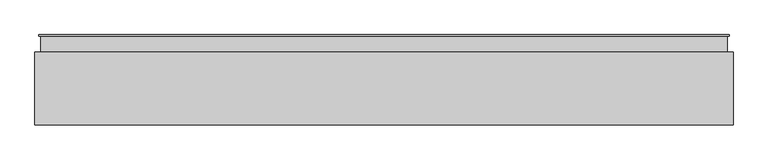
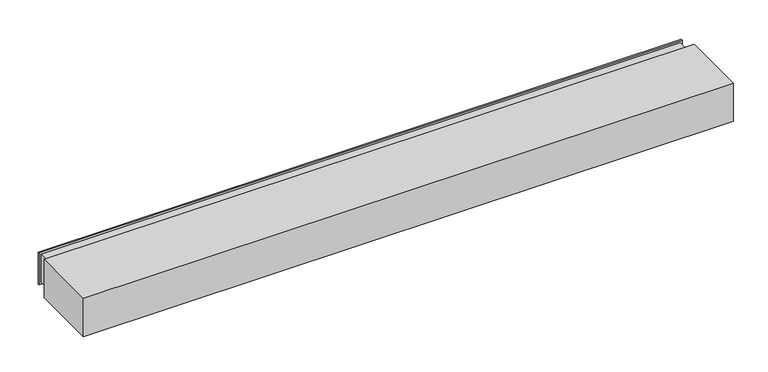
"""IFC4 building model written with IfcOpenShell, lengths in millimetres: air terminal geometry, 020_排気ガラリ : 排気ガラリ."""

from ifc_helpers import new_model, si_unit, frame, origin, place, context, project, spatial, polyline, outline, extrude, faceted_brep, source, transform, mapped, element, save


def air_terminal_02e9a27c(model_context):
    return source(origin(), model_context, "Body", "SolidModel", [
        extrude(outline(polyline([(-48.0, 53.3333333), (-48.0, 38.3333333), (10.0, 8.3333333), (10.0, -6.6666667), (8.0, -6.6666667), (8.0, 7.1161157), (-50.0, 37.1161157), (-50.0, 53.3333333), (-48.0, 53.3333333)])), frame((-2350.0, 0.0, 0.0), z_axis=(1.0, 0.0, 0.0), x_axis=(0.0, 1.0, 0.0)), (0.0, 0.0, 1.0), 4700.0),
        extrude(outline(polyline([(-48.0, 6.6666667), (-48.0, -8.3333333), (10.0, -38.3333333), (10.0, -53.3333333), (8.0, -53.3333333), (8.0, -39.5505509), (-50.0, -9.5505509), (-50.0, 6.6666667), (-48.0, 6.6666667)])), frame((-2350.0, 0.0, 0.0), z_axis=(1.0, 0.0, 0.0), x_axis=(0.0, 1.0, 0.0)), (0.0, 0.0, 1.0), 4700.0),
        extrude(outline(polyline([(-48.0, 100.0), (-48.0, 85.0), (10.0, 55.0), (10.0, 40.0), (8.0, 40.0), (8.0, 53.7827824), (-50.0, 83.7827824), (-50.0, 100.0), (-48.0, 100.0)])), frame((-2350.0, 0.0, 0.0), z_axis=(1.0, 0.0, 0.0), x_axis=(0.0, 1.0, 0.0)), (0.0, 0.0, 1.0), 4700.0),
        extrude(outline(polyline([(-48.0, -40.0), (-48.0, -55.0), (10.0, -85.0), (10.0, -100.0), (8.0, -100.0), (8.0, -86.2172176), (-50.0, -56.2172176), (-50.0, -40.0), (-48.0, -40.0)])), frame((-2350.0, 0.0, 0.0), z_axis=(1.0, 0.0, 0.0), x_axis=(0.0, 1.0, 0.0)), (0.0, 0.0, 1.0), 4700.0),
        faceted_brep([(2350.0, 10.0, 100.0), (2350.0, 10.0, -100.0), (2350.0, -110.0, -100.0), (2350.0, -110.0, 100.0), (2375.0, 0.0, 125.0), (2375.0, 0.0, -125.0), (2375.0, 10.0, -125.0), (2375.0, 10.0, 125.0), (2360.0, -110.0, 110.0), (2360.0, -110.0, -110.0), (2360.0, 0.0, -110.0), (2360.0, 0.0, 110.0), (-2350.0, 10.0, -100.0), (-2350.0, -110.0, -100.0), (-2375.0, 0.0, -125.0), (-2375.0, 10.0, -125.0), (-2360.0, -110.0, -110.0), (-2360.0, 0.0, -110.0), (-2350.0, 10.0, 100.0), (-2350.0, -110.0, 100.0), (-2375.0, 0.0, 125.0), (-2375.0, 10.0, 125.0), (-2360.0, -110.0, 110.0), (-2360.0, 0.0, 110.0)], [[[0, 1, 2, 3]], [[4, 5, 6, 7]], [[8, 9, 10, 11]], [[1, 12, 13, 2]], [[5, 14, 15, 6]], [[9, 16, 17, 10]], [[12, 18, 19, 13]], [[14, 20, 21, 15]], [[16, 22, 23, 17]], [[18, 0, 3, 19]], [[7, 6, 15, 21], [1, 0, 18, 12]], [[20, 4, 7, 21]], [[5, 4, 20, 14], [11, 10, 17, 23]], [[22, 8, 11, 23]], [[9, 8, 22, 16], [3, 2, 13, 19]]]),
        extrude(outline(polyline([(2350.0, 0.0), (2350.0, -10.0), (-2350.0, -10.0), (-2350.0, 0.0), (2350.0, 0.0)])), frame((0.0, 0.0, -100.0), z_axis=(0.0, 0.0, 1.0), x_axis=(1.0, 0.0, 0.0)), (0.0, 0.0, 1.0), 200.0),
        extrude(outline(polyline([(2400.0, -110.0), (2400.0, -610.0), (-2400.0, -610.0), (-2400.0, -110.0), (2400.0, -110.0)])), frame((0.0, 0.0, -150.0), z_axis=(0.0, 0.0, 1.0), x_axis=(1.0, 0.0, 0.0)), (0.0, 0.0, 1.0), 300.0),
    ])


if __name__ == "__main__":
    model = new_model("IFC4")
    model_context = context("Model", 3, world=origin())
    ifc_project = project(units=[si_unit("LENGTHUNIT", "METRE", prefix="MILLI")], contexts=[model_context])
    site = spatial("IfcSite", under=ifc_project)
    building = spatial("IfcBuilding", under=site)
    placement = place(None, origin())
    air_terminal_shape = air_terminal_02e9a27c(model_context)
    element("IfcAirTerminal", 1, ObjectType="020_排気ガラリ : 排気ガラリ", at=placement, inside=building, context=model_context, shape_type="MappedRepresentation", body=[
        mapped(air_terminal_shape, transform((0.0, 0.0, 0.0), x_axis=(1.0, 0.0, 0.0), y_axis=(0.0, 1.0, 0.0), z_axis=(0.0, 0.0, 1.0))),
    ])
    save(model, "model.ifc")
